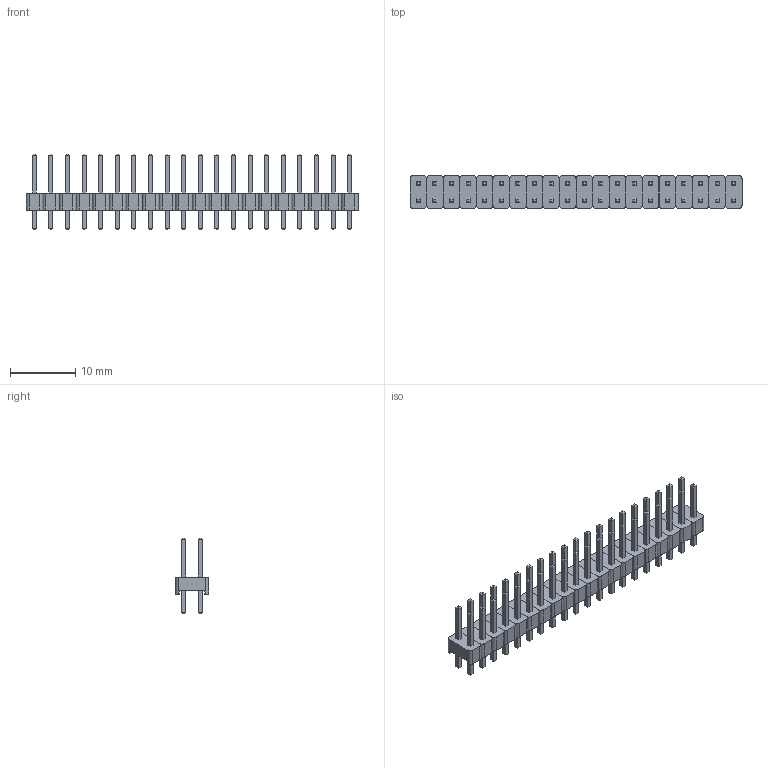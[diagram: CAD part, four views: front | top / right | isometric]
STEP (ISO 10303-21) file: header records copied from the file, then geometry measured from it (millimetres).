
FILE_DESCRIPTION(('FreeCAD Model'),'2;1');
FILE_NAME('Open CASCADE Shape Model','2022-04-06T16:01:30',( 'Engenharia Metaltex'),('Metaltex'), 'Open CASCADE STEP processor 7.5','FreeCAD','Unknown');
FILE_SCHEMA(('AUTOMOTIVE_DESIGN { 1 0 10303 214 1 1 1 1 }'));
Length unit declared in the file: millimetre
Products named in the file (81): BPDC; 20; Base019; Pino039; Pino040; 1; Base; Pino1; Pino2; 2; Base001; Pino003; Pino004; 3; Base002; Pino006; Pino005; 4; Base003; Pino008; Pino007; 5; Base004; Pino009; Pino010; 6; Base005; Pino012; Pino011; 7; Base006; Pino013; Pino014; 8; Base007; Pino015; Pino016; 9; Base008; Pino017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
Assembly tree (80 placements, depth 3):
  BPDC
    20
      Base019
      Pino039
      Pino040
    1
      Base
      Pino1
      Pino2
    2
      Base001
      Pino003
      Pino004
    3
      Base002
      Pino006
      Pino005
    4
      Base003
      Pino008
      Pino007
    5
      Base004
      Pino009
      Pino010
    6
      Base005
      Pino012
      Pino011
    7
      Base006
      Pino013
      Pino014
    8
      Base007
      Pino015
      Pino016
    9
      Base008
      Pino017
      Pino018
    10
      Base009
      Pino019
      Pino020
    11
      Base010
      Pino021
      Pino022
    12
      Base011
      Pino023
      Pino024
    13
      Base012
      Pino025
      Pino026
    14
      Base013
      Pino027
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Bounding box: 50.8 x 5.08 x 11.54 mm (x, y, z)
Volume: 698.4 mm3; surface area: 2572.6 mm2
Topology: 60 solids, 60 shells, 1000 faces, 2320 edges, 1440 vertices
Faces by surface type: plane 920, cylinder 80
Entity records: 60019 total; most frequent: CARTESIAN_POINT 9961, DIRECTION 9202, LINE 6640, VECTOR 6640, ORIENTED_EDGE 4640, PCURVE 4640, DEFINITIONAL_REPRESENTATION 4640, EDGE_CURVE 2320
